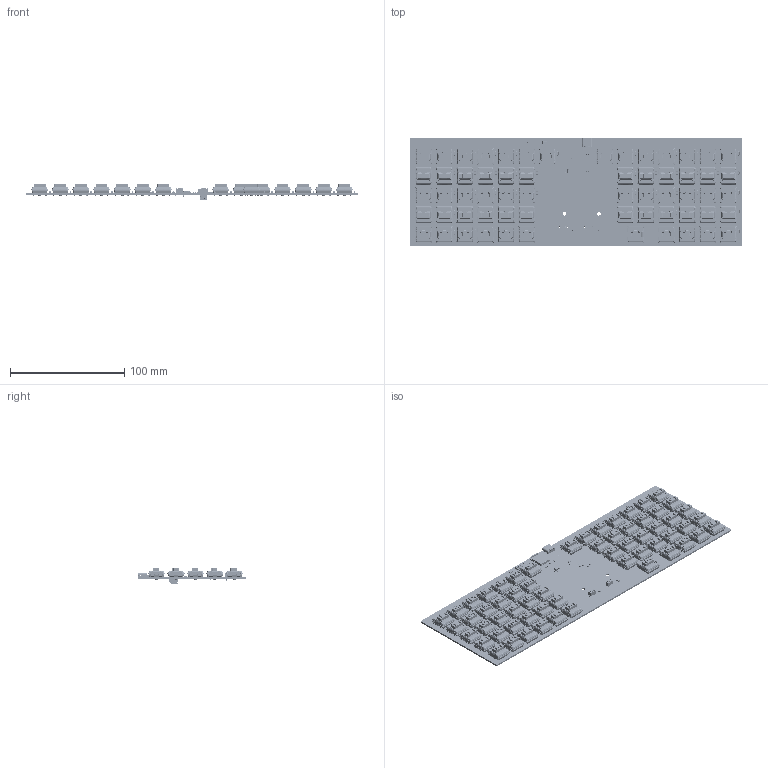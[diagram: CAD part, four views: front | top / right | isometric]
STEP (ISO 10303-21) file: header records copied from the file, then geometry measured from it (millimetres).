
FILE_DESCRIPTION(('KiCad electronic assembly'),'2;1');
FILE_NAME('CyberdeckKeyboard.step','2026-08-19T04:10:22',('Pcbnew'),( 'Kicad'),'Open CASCADE STEP processor 7.8','KiCad to STEP converter' ,'Unknown');
FILE_SCHEMA(('AUTOMOTIVE_DESIGN { 1 0 10303 214 1 1 1 1 }'));
Length unit declared in the file: millimetre
Products named in the file (14): CyberdeckKeyboard 1; Diode_SOD-123; Choc_V1; USB_C_Receptacle_GCT_USB4105-xx-A_16P_TopMnt_Horizontal; SW_PUSH_1P1T_6x3.5mm_H4.3_APEM_MJTP1243; R_0603_1608Metric; C_0603_1608Metric; Raytac_MDBT50Q; SOT-23-5; LED_1206_3216Metric; L_0603_1608Metric; SW_SPST_CK_RS282G05A3; JST_PH_S2B-PH-K_1x02_P2.00mm_Horizontal; CyberdeckKeyboard_PCB
Assembly tree (155 placements, depth 2):
  CyberdeckKeyboard 1
    Diode_SOD-123  x63
    Choc_V1  x61
    USB_C_Receptacle_GCT_USB4105-xx-A_16P_TopMnt_Horizontal
    SW_PUSH_1P1T_6x3.5mm_H4.3_APEM_MJTP1243  x2
    R_0603_1608Metric  x10
    C_0603_1608Metric  x10
    Raytac_MDBT50Q
    SOT-23-5
    LED_1206_3216Metric  x2
    L_0603_1608Metric
    SW_SPST_CK_RS282G05A3
    JST_PH_S2B-PH-K_1x02_P2.00mm_Horizontal
    CyberdeckKeyboard_PCB
Bounding box: 290 x 94 x 14.58 mm (x, y, z)
Volume: 96874.5 mm3; surface area: 153871.9 mm2
Topology: 437 solids, 437 shells, 36689 faces, 96958 edges, 61464 vertices
Faces by surface type: plane 18590, bspline 16729, cylinder 1346, sphere 16, cone 8
Full cylindrical faces by diameter (mm): 0.5 x2, 0.65 x2, 0.75 x2, 1.2 x122, 1.3 x4, 1.6 x61, 1.9 x122, 3.2 x2, 5.05 x61
Entity records: 84521 total; most frequent: CARTESIAN_POINT 17007, ORIENTED_EDGE 11608, DIRECTION 9780, EDGE_CURVE 5804, VERTEX_POINT 3738, AXIS2_PLACEMENT_3D 3331, LINE 3118, VECTOR 3118
